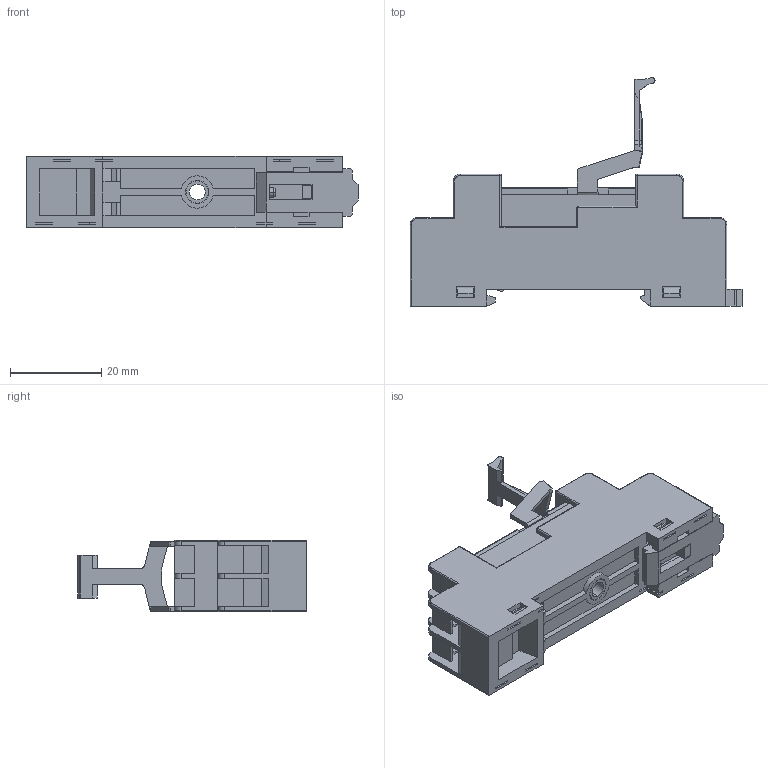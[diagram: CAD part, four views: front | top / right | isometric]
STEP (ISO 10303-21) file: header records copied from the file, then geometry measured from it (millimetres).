
FILE_DESCRIPTION (( 'STEP AP203' ), '1' );
FILE_NAME ('SRT0508-E 俋倛芞.STEP', '2019-05-07T07:16:37', ( 'shenler' ), ( 'Microsoft' ), 'SwSTEP 2.0', 'SolidWorks 2017', '' );
FILE_SCHEMA (( 'CONFIG_CONTROL_DESIGN' ));
Length unit declared in the file: millimetre
Products named in the file (1): SRT0508-E 俋倛芞
Bounding box: 72.9 x 50.2 x 15.8 mm (x, y, z)
Volume: 20413.9 mm3; surface area: 13496 mm2
Topology: 1 solids, 1 shells, 784 faces, 2190 edges, 1396 vertices
Faces by surface type: plane 603, cylinder 142, bspline 33, cone 6
Entity records: 25285 total; most frequent: CARTESIAN_POINT 5108, ORIENTED_EDGE 4352, DIRECTION 3889, EDGE_CURVE 2176, VECTOR 1871, LINE 1871, VERTEX_POINT 1396, AXIS2_PLACEMENT_3D 1009
